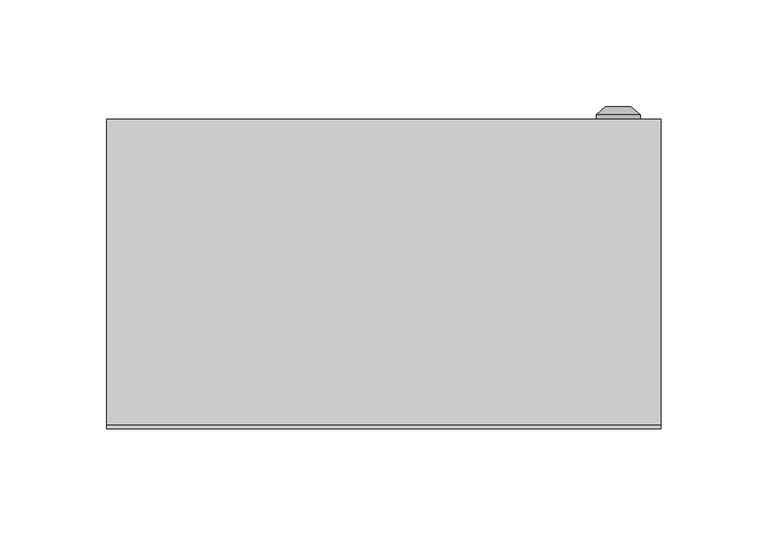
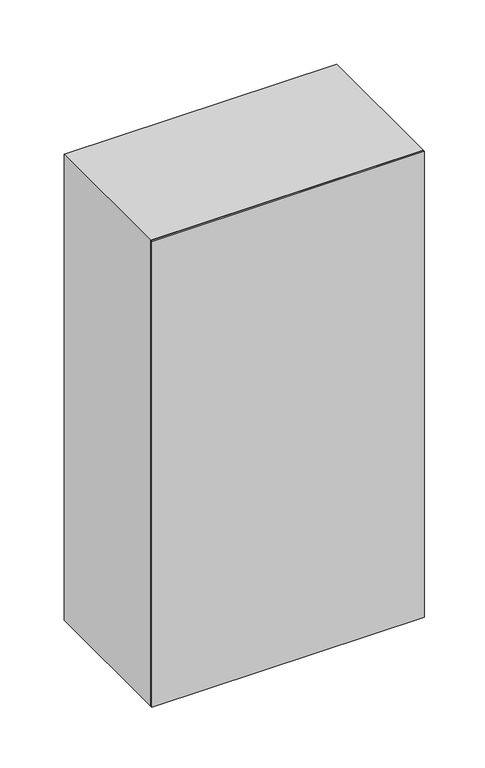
"""IFC4 building model written with IfcOpenShell, lengths in millimetres: proxy geometry, ЩУРН-1_9 : ЩУРН-1/9."""

from ifc_helpers import new_model, si_unit, point, frame, frame_2d, origin, origin_with_axes, place, context, project, spatial, polyline, circle_curve, trimmed, segment, composite_curve, outline, extrude, source, transform, mapped, element, save
from ifc_brep_helpers import plane_surface, cylinder_surface, revolved_surface, advanced_brep


def electrical_equipment_5a98589f(model_context):
    return source(origin(), model_context, "Body", "SolidModel", [
        advanced_brep(
        [(99.669873, 145.0, 235.0), (120.330127, 145.0, 235.0), (110.0, 145.0, 235.0), (108.1080471, 151.0, 235.0), (111.8919529, 151.0, 235.0), (116.0, 151.0, 235.0), (104.0, 151.0, 235.0), (108.1080471, 149.9822294, 235.0), (111.8919529, 149.9822294, 235.0), (110.0, 149.9822294, 235.0), (99.669873, 147.366592, 235.0), (120.330127, 147.366592, 235.0)],
        [
            (0, 1, circle_curve(frame((110.0, 145.0, 235.0), z_axis=(0.0, -1.0, 0.0), x_axis=(1.0, 0.0, 0.0)), 10.330127)),
            (1, 2),
            (2, 0),
            (1, 0, circle_curve(frame((110.0, 145.0, 235.0), z_axis=(0.0, -1.0, 0.0), x_axis=(1.0, 0.0, 0.0)), 10.330127)),
            (3, 4, circle_curve(frame((110.0, 151.0, 235.0), z_axis=(0.0, -1.0, 0.0), x_axis=(1.0, 0.0, 0.0)), 1.8919529)),
            (4, 5),
            (5, 6, circle_curve(frame((110.0, 151.0, 235.0), z_axis=(0.0, 1.0, 0.0), x_axis=(1.0, 0.0, 0.0)), 6.0)),
            (6, 3),
            (4, 3, circle_curve(frame((110.0, 151.0, 235.0), z_axis=(0.0, -1.0, 0.0), x_axis=(1.0, 0.0, 0.0)), 1.8919529)),
            (6, 5, circle_curve(frame((110.0, 151.0, 235.0), z_axis=(0.0, 1.0, 0.0), x_axis=(1.0, 0.0, 0.0)), 6.0)),
            (7, 8, circle_curve(frame((110.0, 149.9822294, 235.0), z_axis=(0.0, -1.0, 0.0), x_axis=(1.0, 0.0, 0.0)), 1.8919529)),
            (8, 4),
            (3, 7),
            (8, 7, circle_curve(frame((110.0, 149.9822294, 235.0), z_axis=(0.0, -1.0, 0.0), x_axis=(1.0, 0.0, 0.0)), 1.8919529)),
            (9, 8),
            (7, 9),
            (10, 11, circle_curve(frame((110.0, 147.366592, 235.0), z_axis=(0.0, -1.0, 0.0), x_axis=(1.0, 0.0, 0.0)), 10.330127)),
            (11, 1),
            (0, 10),
            (11, 10, circle_curve(frame((110.0, 147.366592, 235.0), z_axis=(0.0, -1.0, 0.0), x_axis=(1.0, 0.0, 0.0)), 10.330127)),
            (5, 11),
            (10, 6),
        ],
        [
            plane_surface(frame((110.0, 145.0, 235.0), z_axis=(0.0, -1.0, 0.0), x_axis=(1.0, 0.0, 0.0))),
            plane_surface(frame((110.0, 151.0, 235.0), z_axis=(0.0, 1.0, 0.0), x_axis=(1.0, 0.0, 0.0))),
            revolved_surface(polyline([(111.8919529, 151.0, 235.0), (111.8919529, 149.9822294, 235.0)]), (110.0, 158.1348851, 235.0), (0.0, 1.0, 0.0)),
            plane_surface(frame((110.0, 149.9822294, 235.0), z_axis=(0.0, 1.0, 0.0), x_axis=(1.0, 0.0, 0.0))),
            cylinder_surface(frame((110.0, 158.1348851, 235.0), z_axis=(0.0, 1.0, 0.0), x_axis=(1.0, 0.0, 0.0)), 10.330127),
            revolved_surface(polyline([(120.330127, 147.366592, 235.0), (116.0, 151.0, 235.0)]), (110.0, 158.1348851, 235.0), (0.0, 1.0, 0.0)),
        ],
        [
            (0, [[1, 2, 3]]),
            (0, [[4, -3, -2]]),
            (1, [[5, 6, 7, 8]]),
            (1, [[9, -8, 10, -6]]),
            (2, [[11, 12, -5, 13]]),
            (2, [[14, -13, -9, -12]]),
            (3, [[15, -11, 16]]),
            (3, [[-16, -14, -15]]),
            (4, [[17, 18, -1, 19]]),
            (4, [[20, -19, -4, -18]]),
            (5, [[-7, 21, -17, 22]]),
            (5, [[-10, -22, -20, -21]]),
        ],
    ),
        extrude(outline(polyline([(454.0, -114.0), (16.0, -114.0), (16.0, 114.0), (454.0, 114.0), (454.0, -114.0)]), holes=[composite_curve([segment(polyline([(390.0, -30.0), (390.0, 0.0), (390.0, 30.0)]), True, "CONTINUOUS"), segment(trimmed(circle_curve(frame_2d((380.0, 30.0)), 10.0), [point((390.0, 30.0))], [point((380.0, 40.0))], True, "CARTESIAN"), True, "CONTINUOUS"), segment(polyline([(380.0, 40.0), (350.0, 40.0)]), True, "CONTINUOUS"), segment(trimmed(circle_curve(frame_2d((350.0, 30.0)), 10.0), [point((350.0, 40.0))], [point((340.0, 30.0))], True, "CARTESIAN"), True, "CONTINUOUS"), segment(polyline([(340.0, 30.0), (340.0, -30.0)]), True, "CONTINUOUS"), segment(trimmed(circle_curve(frame_2d((350.0, -30.0)), 10.0), [point((340.0, -30.0))], [point((350.0, -40.0))], True, "CARTESIAN"), True, "CONTINUOUS"), segment(polyline([(350.0, -40.0), (380.0, -40.0)]), True, "CONTINUOUS"), segment(trimmed(circle_curve(frame_2d((380.0, -30.0)), 10.0), [point((380.0, -40.0))], [point((390.0, -30.0))], True, "CARTESIAN"), True, "CONTINUOUS")], self_intersect=False)]), frame((0.0, 143.0, 0.0), z_axis=(0.0, 1.0, 0.0), x_axis=(0.0, 0.0, 1.0)), (0.0, 0.0, 1.0), 2.0),
        extrude(outline(polyline([(470.0, -130.0033905), (0.0, -130.0033905), (0.0, 129.9966095), (470.0, 129.9966095), (470.0, -130.0033905)]), holes=[polyline([(455.0, -115.0), (455.0, 115.0), (15.0, 115.0), (15.0, -115.0), (455.0, -115.0)])]), frame((0.0, 2.0, 0.0), z_axis=(0.0, 1.0, 0.0), x_axis=(0.0, 0.0, 1.0)), (0.0, 0.0, 1.0), 143.0),
        extrude(outline(polyline([(130.0, 0.0), (-130.0, 0.0), (-130.0, 2.0), (130.0, 2.0), (130.0, 0.0)])), origin_with_axes(), (0.0, 0.0, 1.0), 470.0),
    ])


if __name__ == "__main__":
    model = new_model("IFC4")
    model_context = context("Model", 3, world=origin())
    ifc_project = project(units=[si_unit("LENGTHUNIT", "METRE", prefix="MILLI")], contexts=[model_context])
    site = spatial("IfcSite", under=ifc_project)
    building = spatial("IfcBuilding", under=site)
    placement = place(None, origin())
    electrical_equipment_shape = electrical_equipment_5a98589f(model_context)
    element("IfcBuildingElementProxy", 1, Name="ЩУРН-1_9 : ЩУРН-1/9", ObjectType="ЩУРН-1_9 : ЩУРН-1/9", at=placement, inside=building, context=model_context, shape_type="MappedRepresentation", body=[
        mapped(electrical_equipment_shape, transform((0.0, 0.0, 0.0), x_axis=(1.0, 0.0, 0.0), y_axis=(0.0, 1.0, 0.0), z_axis=(0.0, 0.0, 1.0))),
    ])
    save(model, "model.ifc")
